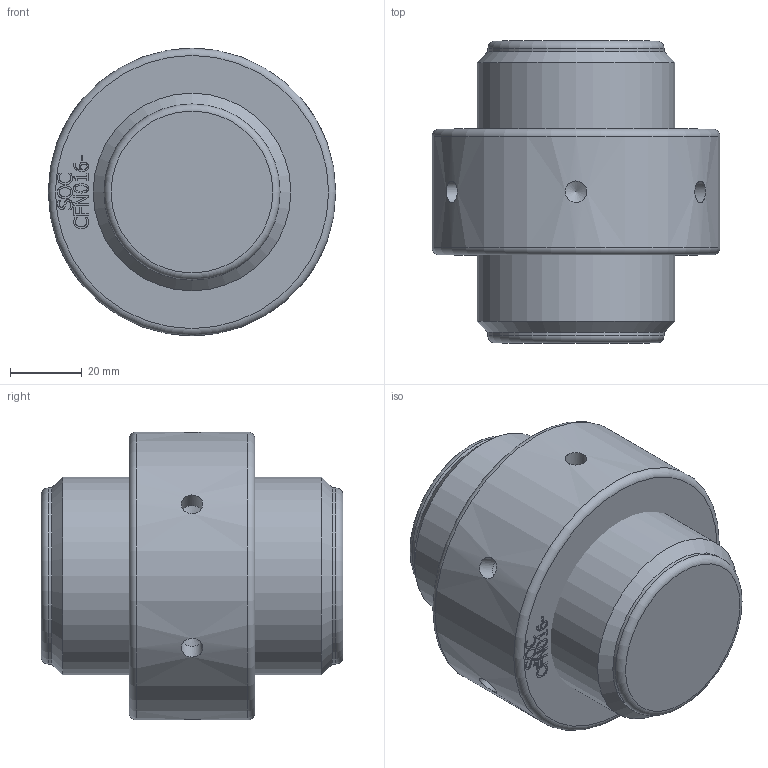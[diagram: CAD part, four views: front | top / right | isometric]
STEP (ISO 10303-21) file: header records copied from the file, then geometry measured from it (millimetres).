
FILE_DESCRIPTION(/* description */ (''),/* implementation_level */ '2;1');
FILE_NAME(/* name */ 'F:\Clienti LS\Redaelli\CYT\CYT\ARRNGEMENT\CYT016 61 061 0.stp',/* time_stamp */ '2021-05-08T11:17:31+02:00',/* author */ ('ranca'),/* organization */ (''),/* preprocessor_version */ 'ST-DEVELOPER v16.13',/* originating_system */ 'Autodesk Inventor 2018',/* authorisation */ '');
FILE_SCHEMA (('AUTOMOTIVE_DESIGN { 1 0 10303 214 3 1 1 }'));
Length unit declared in the file: millimetre
Products named in the file (3): CYT012-61-061-0; CYT012-61-061-0_1; CYT012-61-061-0_DADO
Assembly tree (2 placements, depth 2):
  CYT012-61-061-0
    CYT012-61-061-0_1
    CYT012-61-061-0_DADO
Bounding box: 80 x 84 x 80 mm (x, y, z)
Volume: 298678 mm3; surface area: 38924.7 mm2
Topology: 2 solids, 2 shells, 338 faces, 923 edges, 615 vertices
Faces by surface type: bspline 188, plane 127, cylinder 11, cone 8, torus 4
Full cylindrical faces by diameter (mm): 6 x6, 49 x2, 50.67 x1, 55 x1, 80 x1
Entity records: 11668 total; most frequent: CARTESIAN_POINT 4486, ORIENTED_EDGE 1774, EDGE_CURVE 887, DIRECTION 829, VERTEX_POINT 602, LINE 479, VECTOR 479, EDGE_LOOP 389
